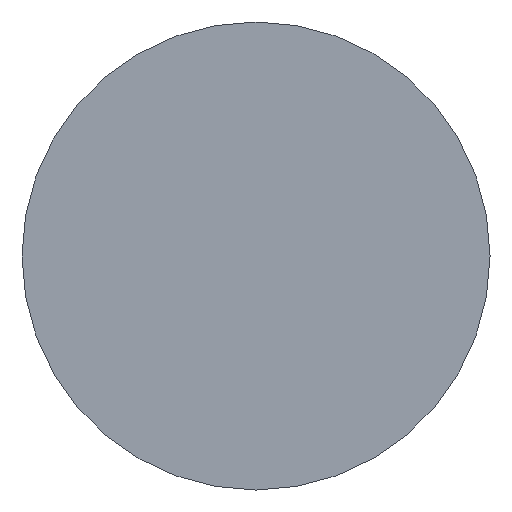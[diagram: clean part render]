
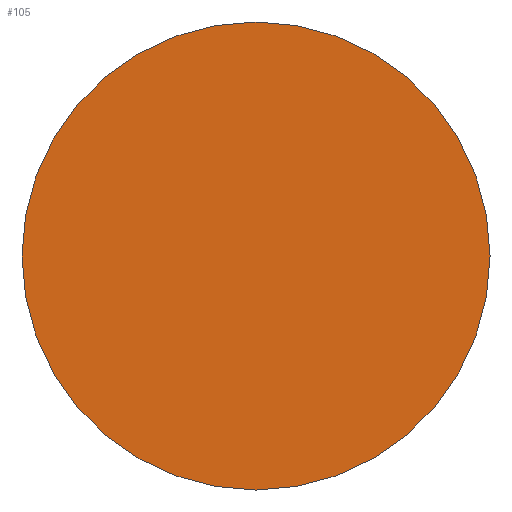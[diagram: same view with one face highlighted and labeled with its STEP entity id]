
A CAD part, front view. The second image highlights one B-rep face of the part: STEP entity #105.
In plain terms, the highlighted planar face has unit normal (0, -1, 0).
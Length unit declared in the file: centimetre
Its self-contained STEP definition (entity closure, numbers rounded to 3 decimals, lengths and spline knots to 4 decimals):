
#21=PLANE('',#124);
#35=FACE_OUTER_BOUND('',#48,.T.);
#48=EDGE_LOOP('',(#88));
#60=CIRCLE('',#123,19.5);
#68=VERTEX_POINT('',#185);
#76=EDGE_CURVE('',#68,#68,#60,.T.);
#88=ORIENTED_EDGE('',*,*,#76,.T.);
#105=ADVANCED_FACE('',(#35),#21,.F.);
#123=AXIS2_PLACEMENT_3D('',#186,#154,#155);
#124=AXIS2_PLACEMENT_3D('',#187,#156,#157);
#154=DIRECTION('center_axis',(0.,-1.,0.));
#155=DIRECTION('ref_axis',(1.,0.,0.));
#156=DIRECTION('center_axis',(0.,1.,0.));
#157=DIRECTION('ref_axis',(0.,0.,1.));
#185=CARTESIAN_POINT('',(-19.5,-1.,0.));
#186=CARTESIAN_POINT('Origin',(0.,-1.,0.));
#187=CARTESIAN_POINT('Origin',(0.,-1.,0.));
